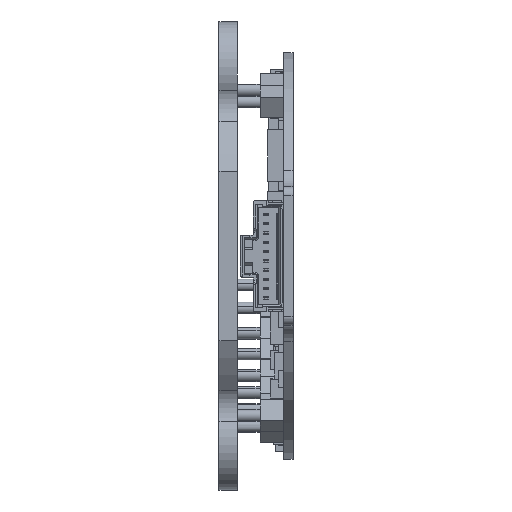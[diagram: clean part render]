
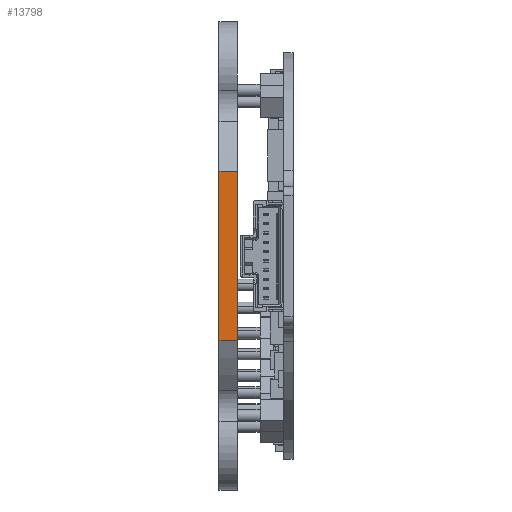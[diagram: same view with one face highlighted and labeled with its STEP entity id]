
A CAD part, left-side view. The second image highlights one B-rep face of the part: STEP entity #13798.
In plain terms, the highlighted planar face has unit normal (-1, 0, 0).
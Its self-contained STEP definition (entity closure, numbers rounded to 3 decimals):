
#565 = CARTESIAN_POINT ( 'NONE',  ( -20., 0., -9.165 ) ) ;
#1040 = DIRECTION ( 'NONE',  ( 0., -1., 0. ) ) ;
#2885 = CARTESIAN_POINT ( 'NONE',  ( -20., 2., -9.165 ) ) ;
#3401 = CARTESIAN_POINT ( 'NONE',  ( -20., 2., -9.165 ) ) ;
#4132 = CARTESIAN_POINT ( 'NONE',  ( -20., 2., -9.165 ) ) ;
#4350 = LINE ( 'NONE', #4132, #13305 ) ;
#4417 = CARTESIAN_POINT ( 'NONE',  ( -20., 2., -9.165 ) ) ;
#5319 = LINE ( 'NONE', #4417, #30467 ) ;
#7961 = AXIS2_PLACEMENT_3D ( 'NONE', #2885, #40032, #22963 ) ;
#9723 = VECTOR ( 'NONE', #11487, 1000. ) ;
#10065 = DIRECTION ( 'NONE',  ( 0., -1., 0. ) ) ;
#10627 = LINE ( 'NONE', #565, #9723 ) ;
#11487 = DIRECTION ( 'NONE',  ( 0., 0., 1. ) ) ;
#12471 = VERTEX_POINT ( 'NONE', #35820 ) ;
#13305 = VECTOR ( 'NONE', #20653, 1000. ) ;
#13798 = ADVANCED_FACE ( 'NONE', ( #30132 ), #26760, .F. ) ;
#13975 = EDGE_CURVE ( 'NONE', #12471, #38640, #30198, .T. ) ;
#14348 = VECTOR ( 'NONE', #10065, 1000. ) ;
#15795 = CARTESIAN_POINT ( 'NONE',  ( -20., 0., -9.165 ) ) ;
#16203 = EDGE_LOOP ( 'NONE', ( #43245, #18214, #30291, #16503 ) ) ;
#16398 = VERTEX_POINT ( 'NONE', #3401 ) ;
#16503 = ORIENTED_EDGE ( 'NONE', *, *, #23093, .T. ) ;
#16713 = EDGE_CURVE ( 'NONE', #37559, #38640, #10627, .T. ) ;
#18214 = ORIENTED_EDGE ( 'NONE', *, *, #13975, .F. ) ;
#20653 = DIRECTION ( 'NONE',  ( 0., 0., 1. ) ) ;
#20885 = EDGE_CURVE ( 'NONE', #16398, #12471, #4350, .T. ) ;
#21665 = CARTESIAN_POINT ( 'NONE',  ( -20., 0., 9.165 ) ) ;
#22963 = DIRECTION ( 'NONE',  ( 0., 0., -1. ) ) ;
#23093 = EDGE_CURVE ( 'NONE', #16398, #37559, #5319, .T. ) ;
#26760 = PLANE ( 'NONE',  #7961 ) ;
#30132 = FACE_OUTER_BOUND ( 'NONE', #16203, .T. ) ;
#30198 = LINE ( 'NONE', #43928, #14348 ) ;
#30291 = ORIENTED_EDGE ( 'NONE', *, *, #20885, .F. ) ;
#30467 = VECTOR ( 'NONE', #1040, 1000. ) ;
#35820 = CARTESIAN_POINT ( 'NONE',  ( -20., 2., 9.165 ) ) ;
#37559 = VERTEX_POINT ( 'NONE', #15795 ) ;
#38640 = VERTEX_POINT ( 'NONE', #21665 ) ;
#40032 = DIRECTION ( 'NONE',  ( 1., 0., 0. ) ) ;
#43245 = ORIENTED_EDGE ( 'NONE', *, *, #16713, .T. ) ;
#43928 = CARTESIAN_POINT ( 'NONE',  ( -20., 2., 9.165 ) ) ;
